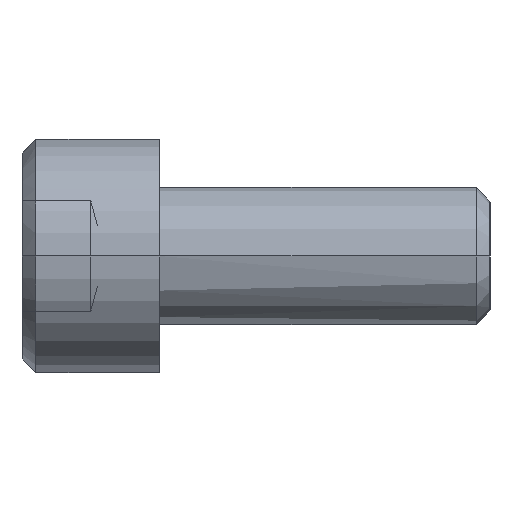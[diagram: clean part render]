
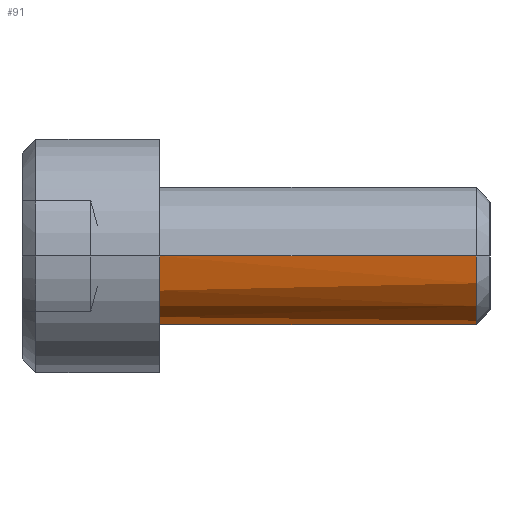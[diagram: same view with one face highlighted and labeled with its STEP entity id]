
A CAD part, left-side view. The second image highlights one B-rep face of the part: STEP entity #91.
In plain terms, the highlighted free-form (B-spline) face has degree [2, 1] with [9, 2] control points.
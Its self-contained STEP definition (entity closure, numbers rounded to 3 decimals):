
#91=ADVANCED_FACE('',(#166),#2233,.T.);
#166=FACE_OUTER_BOUND('',#243,.T.);
#243=EDGE_LOOP('',(#411,#412,#413,#414));
#411=ORIENTED_EDGE('',*,*,#1598,.T.);
#412=ORIENTED_EDGE('',*,*,#1599,.T.);
#413=ORIENTED_EDGE('',*,*,#1600,.T.);
#414=ORIENTED_EDGE('',*,*,#1601,.T.);
#658=(
BOUNDED_CURVE()
B_SPLINE_CURVE(2,(#3300,#3301,#3302,#3303,#3304),.UNSPECIFIED.,.F.,.F.)
B_SPLINE_CURVE_WITH_KNOTS((3,2,3),(0.,3.927,7.854),
 .UNSPECIFIED.)
CURVE()
GEOMETRIC_REPRESENTATION_ITEM()
RATIONAL_B_SPLINE_CURVE((1.,0.707,1.,0.707,1.))
REPRESENTATION_ITEM('')
);
#659=(
BOUNDED_CURVE()
B_SPLINE_CURVE(2,(#3311,#3312,#3313,#3314,#3315),.UNSPECIFIED.,.F.,.F.)
B_SPLINE_CURVE_WITH_KNOTS((3,2,3),(-7.854,-3.927,0.),
 .UNSPECIFIED.)
CURVE()
GEOMETRIC_REPRESENTATION_ITEM()
RATIONAL_B_SPLINE_CURVE((1.,0.707,1.,0.707,1.))
REPRESENTATION_ITEM('')
);
#686=(
BOUNDED_CURVE()
B_SPLINE_CURVE(2,(#3604,#3605,#3606,#3607,#3608),.UNSPECIFIED.,.F.,.F.)
B_SPLINE_CURVE_WITH_KNOTS((3,2,3),(-7.854,-3.927,0.),
 .UNSPECIFIED.)
CURVE()
GEOMETRIC_REPRESENTATION_ITEM()
RATIONAL_B_SPLINE_CURVE((1.,0.707,1.,0.707,1.))
REPRESENTATION_ITEM('')
);
#843=PCURVE('',#2233,#1167);
#844=PCURVE('',#2233,#1168);
#845=PCURVE('',#2233,#1169);
#846=PCURVE('',#2233,#1170);
#850=PCURVE('',#2234,#1174);
#919=PCURVE('',#2238,#1243);
#921=PCURVE('',#2238,#1245);
#926=PCURVE('',#2204,#1250);
#1167=DEFINITIONAL_REPRESENTATION('',(#1838),#4285);
#1168=DEFINITIONAL_REPRESENTATION('',(#1839),#4285);
#1169=DEFINITIONAL_REPRESENTATION('',(#1841),#4285);
#1170=DEFINITIONAL_REPRESENTATION('',(#1842),#4285);
#1174=DEFINITIONAL_REPRESENTATION('',(#1848),#4285);
#1243=DEFINITIONAL_REPRESENTATION('',(#1933),#4285);
#1245=DEFINITIONAL_REPRESENTATION('',(#1935),#4285);
#1250=DEFINITIONAL_REPRESENTATION('',(#686),#4285);
#1436=SURFACE_CURVE('',#1837,(#843,#919),.PCURVE_S1.);
#1437=SURFACE_CURVE('',#658,(#844,#850),.PCURVE_S1.);
#1438=SURFACE_CURVE('',#1840,(#845,#921),.PCURVE_S1.);
#1439=SURFACE_CURVE('',#659,(#846,#926),.PCURVE_S1.);
#1598=EDGE_CURVE('',#2116,#2117,#1436,.T.);
#1599=EDGE_CURVE('',#2117,#2118,#1437,.T.);
#1600=EDGE_CURVE('',#2118,#2119,#1438,.T.);
#1601=EDGE_CURVE('',#2119,#2116,#1439,.T.);
#1837=B_SPLINE_CURVE_WITH_KNOTS('',1,(#3296,#3297),.UNSPECIFIED.,.F.,.F.,
(2,2),(-11.51,0.),.UNSPECIFIED.);
#1838=B_SPLINE_CURVE_WITH_KNOTS('',1,(#3298,#3299),.UNSPECIFIED.,.F.,.F.,
(2,2),(-11.51,0.),.UNSPECIFIED.);
#1839=B_SPLINE_CURVE_WITH_KNOTS('',1,(#3305,#3306),.UNSPECIFIED.,.F.,.F.,
(2,2),(0.,7.854),.UNSPECIFIED.);
#1840=B_SPLINE_CURVE_WITH_KNOTS('',1,(#3307,#3308),.UNSPECIFIED.,.F.,.F.,
(2,2),(-11.51,0.),.UNSPECIFIED.);
#1841=B_SPLINE_CURVE_WITH_KNOTS('',1,(#3309,#3310),.UNSPECIFIED.,.F.,.F.,
(2,2),(-11.51,0.),.UNSPECIFIED.);
#1842=B_SPLINE_CURVE_WITH_KNOTS('',1,(#3316,#3317),.UNSPECIFIED.,.F.,.F.,
(2,2),(-7.854,0.),.UNSPECIFIED.);
#1848=B_SPLINE_CURVE_WITH_KNOTS('',1,(#3333,#3334),.UNSPECIFIED.,.F.,.F.,
(2,2),(0.,7.854),.UNSPECIFIED.);
#1933=B_SPLINE_CURVE_WITH_KNOTS('',1,(#3571,#3572),.UNSPECIFIED.,.F.,.F.,
(2,2),(-11.51,0.),.UNSPECIFIED.);
#1935=B_SPLINE_CURVE_WITH_KNOTS('',1,(#3580,#3581),.UNSPECIFIED.,.F.,.F.,
(2,2),(-11.51,0.),.UNSPECIFIED.);
#2116=VERTEX_POINT('',#3230);
#2117=VERTEX_POINT('',#3231);
#2118=VERTEX_POINT('',#3232);
#2119=VERTEX_POINT('',#3233);
#2204=PLANE('',#2324);
#2233=(
BOUNDED_SURFACE()
B_SPLINE_SURFACE(2,1,((#3065,#3066),(#3067,#3068),(#3069,#3070),(#3071,#3072),
(#3073,#3074),(#3075,#3076),(#3077,#3078),(#3079,#3080),(#3081,#3082)),
 .UNSPECIFIED.,.T.,.F.,.F.)
B_SPLINE_SURFACE_WITH_KNOTS((3,2,2,2,3),(2,2),(0.,1.571,3.142,
4.712,6.283),(0.,13.814),.UNSPECIFIED.)
GEOMETRIC_REPRESENTATION_ITEM()
RATIONAL_B_SPLINE_SURFACE(((1.,1.),(0.707,0.707),
(1.,1.),(0.707,0.707),(1.,1.),(0.707,
0.707),(1.,1.),(0.707,0.707),(1.,1.)))
REPRESENTATION_ITEM('')
SURFACE()
);
#2234=(
BOUNDED_SURFACE()
B_SPLINE_SURFACE(2,1,((#3083,#3084),(#3085,#3086),(#3087,#3088),(#3089,#3090),
(#3091,#3092),(#3093,#3094),(#3095,#3096),(#3097,#3098),(#3099,#3100)),
 .UNSPECIFIED.,.T.,.F.,.F.)
B_SPLINE_SURFACE_WITH_KNOTS((3,2,2,2,3),(2,2),(0.,1.571,3.142,
4.712,6.283),(0.,3.891),.UNSPECIFIED.)
GEOMETRIC_REPRESENTATION_ITEM()
RATIONAL_B_SPLINE_SURFACE(((1.,1.),(0.707,0.707),
(1.,1.),(0.707,0.707),(1.,1.),(0.707,
0.707),(1.,1.),(0.707,0.707),(1.,1.)))
REPRESENTATION_ITEM('')
SURFACE()
);
#2238=(
BOUNDED_SURFACE()
B_SPLINE_SURFACE(2,1,((#3168,#3169),(#3170,#3171),(#3172,#3173),(#3174,#3175),
(#3176,#3177),(#3178,#3179),(#3180,#3181),(#3182,#3183),(#3184,#3185)),
 .UNSPECIFIED.,.T.,.F.,.F.)
B_SPLINE_SURFACE_WITH_KNOTS((3,2,2,2,3),(2,2),(0.,1.571,3.142,
4.712,6.283),(0.,13.814),.UNSPECIFIED.)
GEOMETRIC_REPRESENTATION_ITEM()
RATIONAL_B_SPLINE_SURFACE(((1.,1.),(0.707,0.707),
(1.,1.),(0.707,0.707),(1.,1.),(0.707,
0.707),(1.,1.),(0.707,0.707),(1.,1.)))
REPRESENTATION_ITEM('')
SURFACE()
);
#2324=AXIS2_PLACEMENT_3D('',#3186,#2379,$);
#2379=DIRECTION('',(0.,1.,0.));
#3065=CARTESIAN_POINT('',(-840.,-536.848,91.5));
#3066=CARTESIAN_POINT('',(-840.,-550.662,91.5));
#3067=CARTESIAN_POINT('',(-837.5,-536.848,91.5));
#3068=CARTESIAN_POINT('',(-837.5,-550.662,91.5));
#3069=CARTESIAN_POINT('',(-837.5,-536.848,89.));
#3070=CARTESIAN_POINT('',(-837.5,-550.662,89.));
#3071=CARTESIAN_POINT('',(-837.5,-536.848,86.5));
#3072=CARTESIAN_POINT('',(-837.5,-550.662,86.5));
#3073=CARTESIAN_POINT('',(-840.,-536.848,86.5));
#3074=CARTESIAN_POINT('',(-840.,-550.662,86.5));
#3075=CARTESIAN_POINT('',(-842.5,-536.848,86.5));
#3076=CARTESIAN_POINT('',(-842.5,-550.662,86.5));
#3077=CARTESIAN_POINT('',(-842.5,-536.848,89.));
#3078=CARTESIAN_POINT('',(-842.5,-550.662,89.));
#3079=CARTESIAN_POINT('',(-842.5,-536.848,91.5));
#3080=CARTESIAN_POINT('',(-842.5,-550.662,91.5));
#3081=CARTESIAN_POINT('',(-840.,-536.848,91.5));
#3082=CARTESIAN_POINT('',(-840.,-550.662,91.5));
#3083=CARTESIAN_POINT('',(-840.,-552.01,89.));
#3084=CARTESIAN_POINT('',(-840.,-549.258,91.751));
#3085=CARTESIAN_POINT('',(-840.,-552.01,89.));
#3086=CARTESIAN_POINT('',(-842.751,-549.258,91.751));
#3087=CARTESIAN_POINT('',(-840.,-552.01,89.));
#3088=CARTESIAN_POINT('',(-842.751,-549.258,89.));
#3089=CARTESIAN_POINT('',(-840.,-552.01,89.));
#3090=CARTESIAN_POINT('',(-842.751,-549.258,86.249));
#3091=CARTESIAN_POINT('',(-840.,-552.01,89.));
#3092=CARTESIAN_POINT('',(-840.,-549.258,86.249));
#3093=CARTESIAN_POINT('',(-840.,-552.01,89.));
#3094=CARTESIAN_POINT('',(-837.249,-549.258,86.249));
#3095=CARTESIAN_POINT('',(-840.,-552.01,89.));
#3096=CARTESIAN_POINT('',(-837.249,-549.258,89.));
#3097=CARTESIAN_POINT('',(-840.,-552.01,89.));
#3098=CARTESIAN_POINT('',(-837.249,-549.258,91.751));
#3099=CARTESIAN_POINT('',(-840.,-552.01,89.));
#3100=CARTESIAN_POINT('',(-840.,-549.258,91.751));
#3168=CARTESIAN_POINT('',(-840.,-536.848,86.5));
#3169=CARTESIAN_POINT('',(-840.,-550.662,86.5));
#3170=CARTESIAN_POINT('',(-842.5,-536.848,86.5));
#3171=CARTESIAN_POINT('',(-842.5,-550.662,86.5));
#3172=CARTESIAN_POINT('',(-842.5,-536.848,89.));
#3173=CARTESIAN_POINT('',(-842.5,-550.662,89.));
#3174=CARTESIAN_POINT('',(-842.5,-536.848,91.5));
#3175=CARTESIAN_POINT('',(-842.5,-550.662,91.5));
#3176=CARTESIAN_POINT('',(-840.,-536.848,91.5));
#3177=CARTESIAN_POINT('',(-840.,-550.662,91.5));
#3178=CARTESIAN_POINT('',(-837.5,-536.848,91.5));
#3179=CARTESIAN_POINT('',(-837.5,-550.662,91.5));
#3180=CARTESIAN_POINT('',(-837.5,-536.848,89.));
#3181=CARTESIAN_POINT('',(-837.5,-550.662,89.));
#3182=CARTESIAN_POINT('',(-837.5,-536.848,86.5));
#3183=CARTESIAN_POINT('',(-837.5,-550.662,86.5));
#3184=CARTESIAN_POINT('',(-840.,-536.848,86.5));
#3185=CARTESIAN_POINT('',(-840.,-550.662,86.5));
#3186=CARTESIAN_POINT('',(-845.101,-538.,94.101));
#3230=CARTESIAN_POINT('',(-842.5,-538.,89.));
#3231=CARTESIAN_POINT('',(-842.5,-549.51,89.));
#3232=CARTESIAN_POINT('',(-837.5,-549.51,89.));
#3233=CARTESIAN_POINT('',(-837.5,-538.,89.));
#3296=CARTESIAN_POINT('',(-842.5,-538.,89.));
#3297=CARTESIAN_POINT('',(-842.5,-549.51,89.));
#3298=CARTESIAN_POINT('',(4.712,1.152));
#3299=CARTESIAN_POINT('',(4.712,12.662));
#3300=CARTESIAN_POINT('',(-842.5,-549.51,89.));
#3301=CARTESIAN_POINT('',(-842.5,-549.51,86.5));
#3302=CARTESIAN_POINT('',(-840.,-549.51,86.5));
#3303=CARTESIAN_POINT('',(-837.5,-549.51,86.5));
#3304=CARTESIAN_POINT('',(-837.5,-549.51,89.));
#3305=CARTESIAN_POINT('',(4.712,12.662));
#3306=CARTESIAN_POINT('',(1.571,12.662));
#3307=CARTESIAN_POINT('',(-837.5,-549.51,89.));
#3308=CARTESIAN_POINT('',(-837.5,-538.,89.));
#3309=CARTESIAN_POINT('',(1.571,12.662));
#3310=CARTESIAN_POINT('',(1.571,1.152));
#3311=CARTESIAN_POINT('',(-837.5,-538.,89.));
#3312=CARTESIAN_POINT('',(-837.5,-538.,86.5));
#3313=CARTESIAN_POINT('',(-840.,-538.,86.5));
#3314=CARTESIAN_POINT('',(-842.5,-538.,86.5));
#3315=CARTESIAN_POINT('',(-842.5,-538.,89.));
#3316=CARTESIAN_POINT('',(1.571,1.152));
#3317=CARTESIAN_POINT('',(4.712,1.152));
#3333=CARTESIAN_POINT('',(1.571,3.536));
#3334=CARTESIAN_POINT('',(4.712,3.536));
#3571=CARTESIAN_POINT('',(1.571,1.152));
#3572=CARTESIAN_POINT('',(1.571,12.662));
#3580=CARTESIAN_POINT('',(4.712,12.662));
#3581=CARTESIAN_POINT('',(4.712,1.152));
#3604=CARTESIAN_POINT('',(5.875,0.));
#3605=CARTESIAN_POINT('',(5.875,2.5));
#3606=CARTESIAN_POINT('',(3.375,2.5));
#3607=CARTESIAN_POINT('',(0.875,2.5));
#3608=CARTESIAN_POINT('',(0.875,0.));
#4285=(
GEOMETRIC_REPRESENTATION_CONTEXT(2)
PARAMETRIC_REPRESENTATION_CONTEXT()
REPRESENTATION_CONTEXT('pspace','')
);
